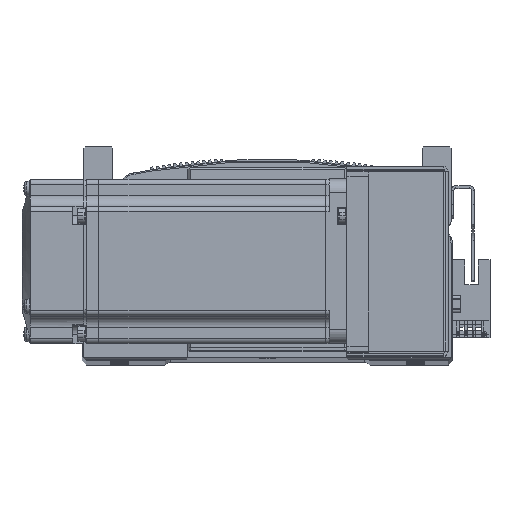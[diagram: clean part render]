
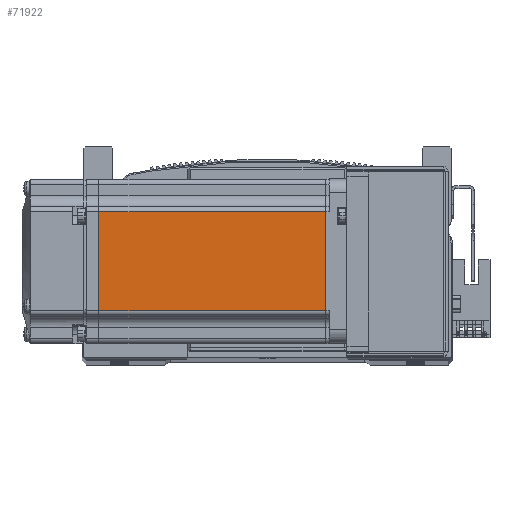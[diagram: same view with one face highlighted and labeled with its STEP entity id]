
A CAD part, top view. The second image highlights one B-rep face of the part: STEP entity #71922.
In plain terms, the highlighted planar face has unit normal (0, 0, 1) as drawn and (0, -1, 0) by its records, which use the part's own axes.
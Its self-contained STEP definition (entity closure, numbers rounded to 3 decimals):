
#1510 = FACE_OUTER_BOUND ( 'NONE', #17477, .T. ) ;
#3483 = ORIENTED_EDGE ( 'NONE', *, *, #22727, .T. ) ;
#3489 = ORIENTED_EDGE ( 'NONE', *, *, #22732, .T. ) ;
#3517 = ORIENTED_EDGE ( 'NONE', *, *, #22700, .F. ) ;
#3548 = ORIENTED_EDGE ( 'NONE', *, *, #22695, .F. ) ;
#12956 = LINE ( 'NONE', #48349, #13148 ) ;
#13148 = VECTOR ( 'NONE', #48347, 1000. ) ;
#13831 = LINE ( 'NONE', #48345, #13992 ) ;
#13992 = VECTOR ( 'NONE', #48353, 1000. ) ;
#17477 = EDGE_LOOP ( 'NONE', ( #3517, #3483, #3489, #3548 ) ) ;
#22695 = EDGE_CURVE ( 'NONE', #73882, #72722, #12956, .T. ) ;
#22700 = EDGE_CURVE ( 'NONE', #73851, #73882, #13831, .T. ) ;
#22727 = EDGE_CURVE ( 'NONE', #73851, #72749, #40359, .T. ) ;
#22732 = EDGE_CURVE ( 'NONE', #72749, #72722, #40431, .T. ) ;
#32310 = CARTESIAN_POINT ( 'NONE',  ( -90.45, -30., -18. ) ) ;
#32422 = CARTESIAN_POINT ( 'NONE',  ( -90.45, -30., 18. ) ) ;
#34134 = CARTESIAN_POINT ( 'NONE',  ( -7.75, -30., 18. ) ) ;
#34219 = CARTESIAN_POINT ( 'NONE',  ( -7.75, -30., -18. ) ) ;
#40349 = VECTOR ( 'NONE', #48417, 1000. ) ;
#40359 = LINE ( 'NONE', #48399, #40349 ) ;
#40431 = LINE ( 'NONE', #48439, #40435 ) ;
#40435 = VECTOR ( 'NONE', #48429, 1000. ) ;
#48345 = CARTESIAN_POINT ( 'NONE',  ( -7.75, -30., 0. ) ) ;
#48347 = DIRECTION ( 'NONE',  ( -1., 0., 0. ) ) ;
#48349 = CARTESIAN_POINT ( 'NONE',  ( -6.5, -30., -18. ) ) ;
#48353 = DIRECTION ( 'NONE',  ( 0., 0., -1. ) ) ;
#48399 = CARTESIAN_POINT ( 'NONE',  ( -6.5, -30., 18. ) ) ;
#48417 = DIRECTION ( 'NONE',  ( -1., 0., 0. ) ) ;
#48429 = DIRECTION ( 'NONE',  ( 0., 0., -1. ) ) ;
#48439 = CARTESIAN_POINT ( 'NONE',  ( -90.45, -30., 0. ) ) ;
#50002 = AXIS2_PLACEMENT_3D ( 'NONE', #60594, #60564, #60596 ) ;
#60564 = DIRECTION ( 'NONE',  ( 0., -1., 0. ) ) ;
#60575 = PLANE ( 'NONE',  #50002 ) ;
#60594 = CARTESIAN_POINT ( 'NONE',  ( -6.5, -30., -25. ) ) ;
#60596 = DIRECTION ( 'NONE',  ( 0., 0., -1. ) ) ;
#71922 = ADVANCED_FACE ( 'NONE', ( #1510 ), #60575, .T. ) ;
#72722 = VERTEX_POINT ( 'NONE', #32310 ) ;
#72749 = VERTEX_POINT ( 'NONE', #32422 ) ;
#73851 = VERTEX_POINT ( 'NONE', #34134 ) ;
#73882 = VERTEX_POINT ( 'NONE', #34219 ) ;
